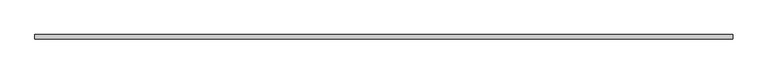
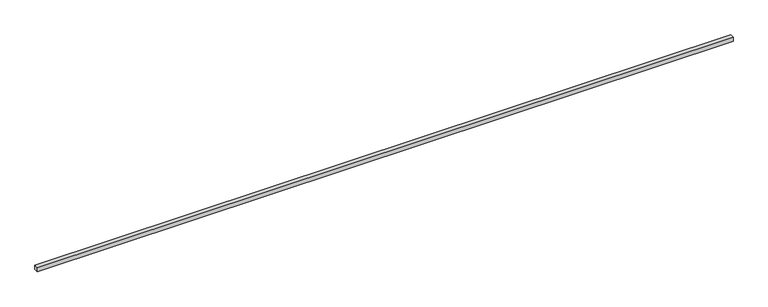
"""IFC4 building model written with IfcOpenShell, lengths in millimetres: proxy geometry, Кабель-каналы_магистральные_цвет-белый : Кабель-канал магистральный 12х12 белый."""

from ifc_helpers import new_model, si_unit, origin, origin_with_axes, place, context, project, spatial, polyline, outline, extrude, source, transform, mapped, element, save


def generic_models_8a0b4467(model_context):
    return source(origin(), model_context, "Body", "SweptSolid", [
        extrude(outline(polyline([(2000.0, -12.0), (0.0, -12.0), (0.0, 0.0), (2000.0, 0.0), (2000.0, -12.0)])), origin_with_axes(), (0.0, 0.0, 1.0), 12.0),
    ])


if __name__ == "__main__":
    model = new_model("IFC4")
    model_context = context("Model", 3, world=origin())
    ifc_project = project(units=[si_unit("LENGTHUNIT", "METRE", prefix="MILLI")], contexts=[model_context])
    site = spatial("IfcSite", under=ifc_project)
    building = spatial("IfcBuilding", under=site)
    placement = place(None, origin())
    generic_models_shape = generic_models_8a0b4467(model_context)
    element("IfcBuildingElementProxy", 1, Name="Кабель-каналы_магистральные_цвет-белый : Кабель-канал магистральный 12х12 белый", ObjectType="Кабель-каналы_магистральные_цвет-белый : Кабель-канал магистральный 12х12 белый", at=placement, inside=building, context=model_context, shape_type="MappedRepresentation", body=[
        mapped(generic_models_shape, transform((0.0, 0.0, 0.0), x_axis=(1.0, 0.0, 0.0), y_axis=(0.0, 1.0, 0.0), z_axis=(0.0, 0.0, 1.0))),
    ])
    save(model, "model.ifc")
